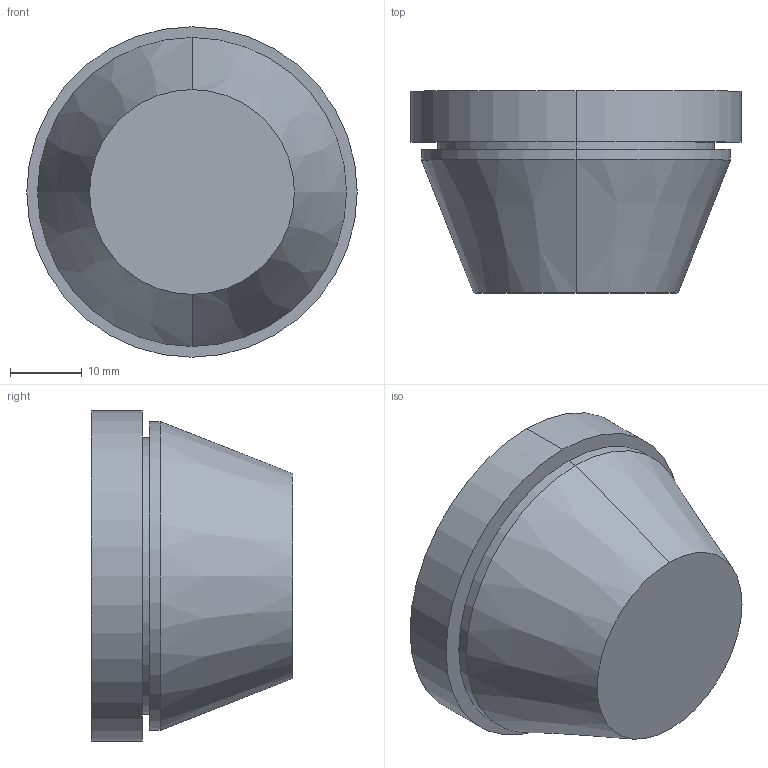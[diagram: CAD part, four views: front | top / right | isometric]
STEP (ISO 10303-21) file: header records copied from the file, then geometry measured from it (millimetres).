
FILE_DESCRIPTION (( 'STEP AP203' ), '1' );
FILE_NAME ('100300.STEP', '2012-10-29T10:41:52', ( 'Joni' ), ( 'Hewlett-Packard Company' ), 'SwSTEP 2.0', 'SolidWorks 2012', '' );
FILE_SCHEMA (( 'CONFIG_CONTROL_DESIGN' ));
Length unit declared in the file: millimetre
Products named in the file (1): 100300
Bounding box: 46 x 28.1 x 46 mm (x, y, z)
Volume: 33966.6 mm3; surface area: 6666.9 mm2
Topology: 1 solids, 1 shells, 12 faces, 22 edges, 14 vertices
Faces by surface type: cylinder 6, plane 4, cone 2
Entity records: 381 total; most frequent: DIRECTION 62, CARTESIAN_POINT 49, ORIENTED_EDGE 44, AXIS2_PLACEMENT_3D 27, EDGE_CURVE 22, CIRCLE 14, VERTEX_POINT 14, EDGE_LOOP 14
